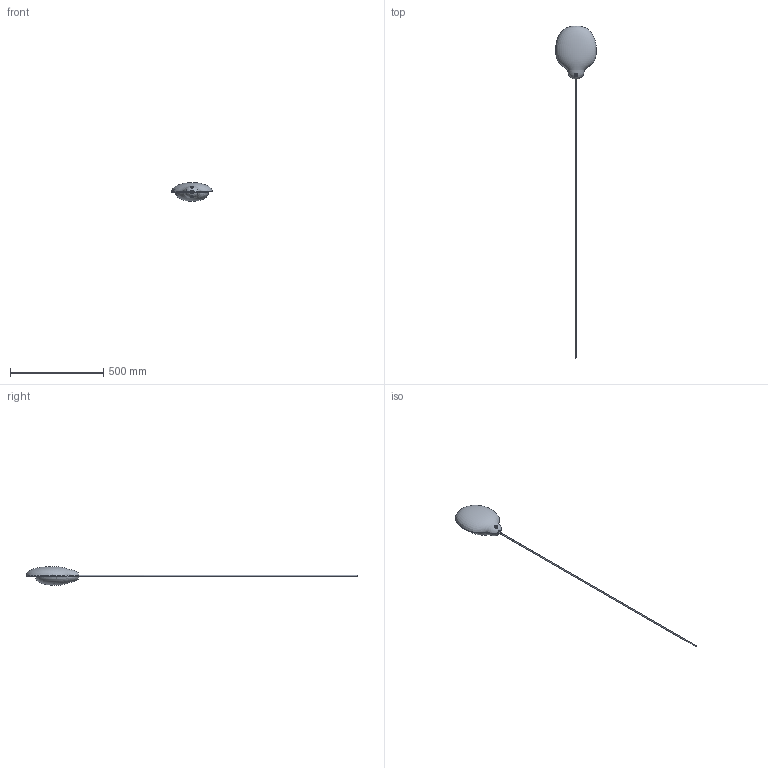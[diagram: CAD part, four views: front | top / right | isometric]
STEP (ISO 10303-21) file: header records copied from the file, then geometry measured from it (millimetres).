
FILE_DESCRIPTION (( 'STEP AP214' ), '1' );
FILE_NAME ('Petal Pendant - Large Lightweight.STEP', '2024-02-16T05:38:26', ( '' ), ( '' ), 'SwSTEP 2.0', 'SolidWorks 2017', '' );
FILE_SCHEMA (( 'AUTOMOTIVE_DESIGN' ));
Length unit declared in the file: millimetre
Products named in the file (1): Petal Pendant - Large Lightweight
Bounding box: 219.8 x 1781.24 x 99.7 mm (x, y, z)
Volume: 647578.7 mm3; surface area: 292845.2 mm2
Topology: 4 solids, 4 shells, 193 faces, 466 edges, 278 vertices
Faces by surface type: bspline 76, cylinder 42, plane 33, sphere 18, torus 14, cone 10
Entity records: 80428 total; most frequent: CARTESIAN_POINT 74482, ORIENTED_EDGE 912, DIRECTION 716, EDGE_CURVE 456, AXIS2_PLACEMENT_3D 318, VERTEX_POINT 278, EDGE_LOOP 208, CIRCLE 200
